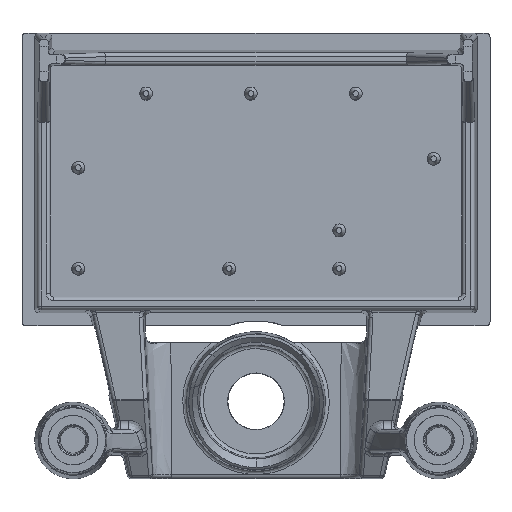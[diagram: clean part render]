
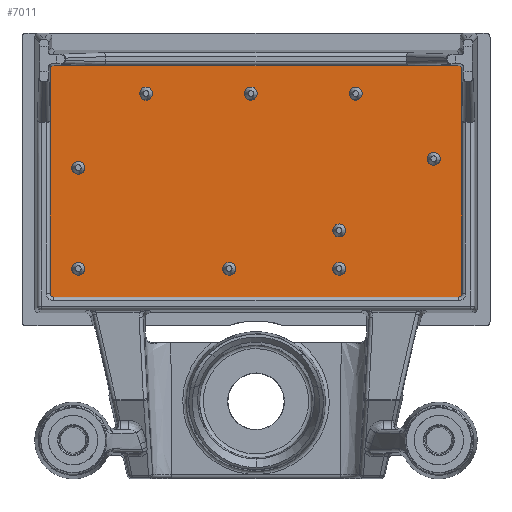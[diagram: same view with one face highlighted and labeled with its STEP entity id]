
A CAD part, top view. The second image highlights one B-rep face of the part: STEP entity #7011.
In plain terms, the highlighted planar face has unit normal (0, 0, 1).
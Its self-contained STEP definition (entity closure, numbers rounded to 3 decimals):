
#370=ELLIPSE('',#7599,0.3,0.3);
#376=ELLIPSE('',#7612,0.3,0.3);
#394=ELLIPSE('',#7691,0.3,0.3);
#395=ELLIPSE('',#7692,0.3,0.3);
#487=CIRCLE('',#7235,0.5);
#490=CIRCLE('',#7241,0.5);
#493=CIRCLE('',#7247,0.5);
#496=CIRCLE('',#7253,0.5);
#499=CIRCLE('',#7259,0.5);
#502=CIRCLE('',#7265,0.5);
#505=CIRCLE('',#7271,0.5);
#508=CIRCLE('',#7277,0.5);
#595=CIRCLE('',#7693,0.5);
#1833=ORIENTED_EDGE('',*,*,#3447,.T.);
#1834=ORIENTED_EDGE('',*,*,#3461,.F.);
#1835=ORIENTED_EDGE('',*,*,#3571,.T.);
#1836=ORIENTED_EDGE('',*,*,#3572,.T.);
#1837=ORIENTED_EDGE('',*,*,#3573,.F.);
#1838=ORIENTED_EDGE('',*,*,#3574,.T.);
#1839=ORIENTED_EDGE('',*,*,#3464,.T.);
#1840=ORIENTED_EDGE('',*,*,#3441,.F.);
#1841=ORIENTED_EDGE('',*,*,#3575,.T.);
#1842=ORIENTED_EDGE('',*,*,#2903,.T.);
#1843=ORIENTED_EDGE('',*,*,#2900,.T.);
#1844=ORIENTED_EDGE('',*,*,#2897,.T.);
#1845=ORIENTED_EDGE('',*,*,#2894,.T.);
#1846=ORIENTED_EDGE('',*,*,#2891,.T.);
#1847=ORIENTED_EDGE('',*,*,#2888,.T.);
#1848=ORIENTED_EDGE('',*,*,#2885,.T.);
#1849=ORIENTED_EDGE('',*,*,#2882,.T.);
#2882=EDGE_CURVE('',#3907,#3907,#487,.T.);
#2885=EDGE_CURVE('',#3910,#3910,#490,.T.);
#2888=EDGE_CURVE('',#3913,#3913,#493,.T.);
#2891=EDGE_CURVE('',#3916,#3916,#496,.T.);
#2894=EDGE_CURVE('',#3919,#3919,#499,.T.);
#2897=EDGE_CURVE('',#3922,#3922,#502,.T.);
#2900=EDGE_CURVE('',#3925,#3925,#505,.T.);
#2903=EDGE_CURVE('',#3928,#3928,#508,.T.);
#3441=EDGE_CURVE('',#4341,#4342,#370,.T.);
#3447=EDGE_CURVE('',#4341,#4346,#4881,.T.);
#3461=EDGE_CURVE('',#4355,#4346,#376,.T.);
#3464=EDGE_CURVE('',#4356,#4342,#4890,.T.);
#3571=EDGE_CURVE('',#4355,#4419,#4933,.T.);
#3572=EDGE_CURVE('',#4419,#4420,#394,.T.);
#3573=EDGE_CURVE('',#4421,#4420,#4934,.T.);
#3574=EDGE_CURVE('',#4421,#4356,#395,.T.);
#3575=EDGE_CURVE('',#4422,#4422,#595,.T.);
#3907=VERTEX_POINT('',#10015);
#3910=VERTEX_POINT('',#10024);
#3913=VERTEX_POINT('',#10033);
#3916=VERTEX_POINT('',#10042);
#3919=VERTEX_POINT('',#10051);
#3922=VERTEX_POINT('',#10060);
#3925=VERTEX_POINT('',#10069);
#3928=VERTEX_POINT('',#10078);
#4341=VERTEX_POINT('',#12607);
#4342=VERTEX_POINT('',#12609);
#4346=VERTEX_POINT('',#12619);
#4355=VERTEX_POINT('',#12671);
#4356=VERTEX_POINT('',#12676);
#4419=VERTEX_POINT('',#13291);
#4420=VERTEX_POINT('',#13293);
#4421=VERTEX_POINT('',#13295);
#4422=VERTEX_POINT('',#13298);
#4881=LINE('',#12620,#5400);
#4890=LINE('',#12675,#5409);
#4933=LINE('',#13290,#5452);
#4934=LINE('',#13294,#5453);
#5400=VECTOR('',#9037,1000.);
#5409=VECTOR('',#9072,1000.);
#5452=VECTOR('',#9269,1000.);
#5453=VECTOR('',#9272,1000.);
#5871=EDGE_LOOP('',(#1833,#1834,#1835,#1836,#1837,#1838,#1839,#1840));
#5872=EDGE_LOOP('',(#1841));
#5873=EDGE_LOOP('',(#1842));
#5874=EDGE_LOOP('',(#1843));
#5875=EDGE_LOOP('',(#1844));
#5876=EDGE_LOOP('',(#1845));
#5877=EDGE_LOOP('',(#1846));
#5878=EDGE_LOOP('',(#1847));
#5879=EDGE_LOOP('',(#1848));
#5880=EDGE_LOOP('',(#1849));
#6374=FACE_BOUND('',#5871,.T.);
#6375=FACE_BOUND('',#5872,.T.);
#6376=FACE_BOUND('',#5873,.T.);
#6377=FACE_BOUND('',#5874,.T.);
#6378=FACE_BOUND('',#5875,.T.);
#6379=FACE_BOUND('',#5876,.T.);
#6380=FACE_BOUND('',#5877,.T.);
#6381=FACE_BOUND('',#5878,.T.);
#6382=FACE_BOUND('',#5879,.T.);
#6383=FACE_BOUND('',#5880,.T.);
#6706=PLANE('',#7690);
#7011=ADVANCED_FACE('',(#6374,#6375,#6376,#6377,#6378,#6379,#6380,#6381,
#6382,#6383),#6706,.F.);
#7235=AXIS2_PLACEMENT_3D('',#10014,#8011,#8012);
#7241=AXIS2_PLACEMENT_3D('',#10023,#8023,#8024);
#7247=AXIS2_PLACEMENT_3D('',#10032,#8035,#8036);
#7253=AXIS2_PLACEMENT_3D('',#10041,#8047,#8048);
#7259=AXIS2_PLACEMENT_3D('',#10050,#8059,#8060);
#7265=AXIS2_PLACEMENT_3D('',#10059,#8071,#8072);
#7271=AXIS2_PLACEMENT_3D('',#10068,#8083,#8084);
#7277=AXIS2_PLACEMENT_3D('',#10077,#8095,#8096);
#7599=AXIS2_PLACEMENT_3D('',#12608,#9028,#9029);
#7612=AXIS2_PLACEMENT_3D('',#12670,#9066,#9067);
#7690=AXIS2_PLACEMENT_3D('',#13289,#9267,#9268);
#7691=AXIS2_PLACEMENT_3D('',#13292,#9270,#9271);
#7692=AXIS2_PLACEMENT_3D('',#13296,#9273,#9274);
#7693=AXIS2_PLACEMENT_3D('',#13297,#9275,#9276);
#8011=DIRECTION('',(0.,0.,-1.));
#8012=DIRECTION('',(-1.,0.,0.));
#8023=DIRECTION('',(0.,0.,-1.));
#8024=DIRECTION('',(-1.,0.,0.));
#8035=DIRECTION('',(0.,0.,-1.));
#8036=DIRECTION('',(-1.,0.,0.));
#8047=DIRECTION('',(0.,0.,-1.));
#8048=DIRECTION('',(-1.,0.,0.));
#8059=DIRECTION('',(0.,0.,-1.));
#8060=DIRECTION('',(-1.,0.,0.));
#8071=DIRECTION('',(0.,0.,-1.));
#8072=DIRECTION('',(-1.,0.,0.));
#8083=DIRECTION('',(0.,0.,-1.));
#8084=DIRECTION('',(-1.,0.,0.));
#8095=DIRECTION('',(0.,0.,-1.));
#8096=DIRECTION('',(-1.,0.,0.));
#9028=DIRECTION('',(0.,0.,-1.));
#9029=DIRECTION('',(-0.707,0.707,0.));
#9037=DIRECTION('',(0.,-1.,0.));
#9066=DIRECTION('',(0.,0.,-1.));
#9067=DIRECTION('',(-0.555,0.832,0.));
#9072=DIRECTION('',(-1.,0.,0.));
#9267=DIRECTION('',(0.,0.,-1.));
#9268=DIRECTION('',(-1.,0.,0.));
#9269=DIRECTION('',(1.,0.,0.));
#9270=DIRECTION('',(0.,0.,1.));
#9271=DIRECTION('',(0.555,0.832,0.));
#9272=DIRECTION('',(0.,-1.,0.));
#9273=DIRECTION('',(0.,0.,1.));
#9274=DIRECTION('',(0.707,0.707,0.));
#9275=DIRECTION('',(0.,0.,-1.));
#9276=DIRECTION('',(-1.,0.,0.));
#10014=CARTESIAN_POINT('',(-2.1,-6.85,10.));
#10015=CARTESIAN_POINT('',(-2.6,-6.85,10.));
#10023=CARTESIAN_POINT('',(6.5,-6.85,10.));
#10024=CARTESIAN_POINT('',(6.,-6.85,10.));
#10032=CARTESIAN_POINT('',(7.8,6.85,10.));
#10033=CARTESIAN_POINT('',(7.3,6.85,10.));
#10041=CARTESIAN_POINT('',(-0.4,6.85,10.));
#10042=CARTESIAN_POINT('',(-0.9,6.85,10.));
#10050=CARTESIAN_POINT('',(6.5,-3.85,10.));
#10051=CARTESIAN_POINT('',(6.,-3.85,10.));
#10059=CARTESIAN_POINT('',(13.9,1.75,10.));
#10060=CARTESIAN_POINT('',(13.4,1.75,10.));
#10068=CARTESIAN_POINT('',(-8.6,6.85,10.));
#10069=CARTESIAN_POINT('',(-9.1,6.85,10.));
#10077=CARTESIAN_POINT('',(-13.9,1.05,10.));
#10078=CARTESIAN_POINT('',(-14.4,1.05,10.));
#12607=CARTESIAN_POINT('',(-16.109,8.759,10.));
#12608=CARTESIAN_POINT('',(-15.809,8.759,10.));
#12609=CARTESIAN_POINT('',(-15.809,9.059,10.));
#12619=CARTESIAN_POINT('',(-16.109,-8.758,10.));
#12620=CARTESIAN_POINT('',(-16.109,0.643,10.));
#12670=CARTESIAN_POINT('',(-15.809,-8.758,10.));
#12671=CARTESIAN_POINT('',(-15.809,-9.058,10.));
#12675=CARTESIAN_POINT('',(-9.023,9.059,10.));
#12676=CARTESIAN_POINT('',(15.809,9.059,10.));
#13289=CARTESIAN_POINT('',(0.,0.,10.));
#13290=CARTESIAN_POINT('',(0.,-9.058,10.));
#13291=CARTESIAN_POINT('',(15.809,-9.058,10.));
#13292=CARTESIAN_POINT('',(15.809,-8.758,10.));
#13293=CARTESIAN_POINT('',(16.109,-8.758,10.));
#13294=CARTESIAN_POINT('',(16.109,0.643,10.));
#13295=CARTESIAN_POINT('',(16.109,8.759,10.));
#13296=CARTESIAN_POINT('',(15.809,8.759,10.));
#13297=CARTESIAN_POINT('',(-13.9,-6.85,10.));
#13298=CARTESIAN_POINT('',(-14.4,-6.85,10.));
